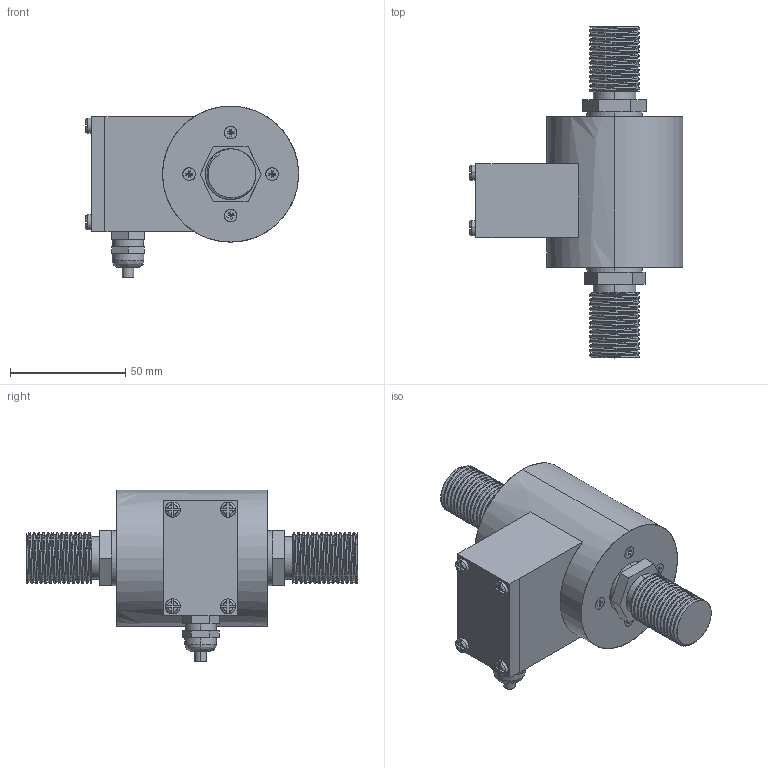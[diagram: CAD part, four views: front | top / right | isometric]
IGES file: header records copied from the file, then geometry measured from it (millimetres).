
Start section: SolidWorks IGES file using analytic representation for surfaces
Global section: file name: O:\16-Entwicklung\Projekte\03_Kraftsensoren\0222_KT1101\01_Mechanik & Gehäuse\01_Solid Works\01_Outline 3D files\KT1101_K_20KN.IGS; native system: SolidWorks 2012; preprocessor: SolidWorks 2012; author: AndreB; date: 140424.110636; units: metre
Bounding box: 92.5 x 144 x 74.5 mm (x, y, z)
Surface area: 33576.5 mm2 (no closed solid volume)
Topology: 0 solids, 0 shells, 283 faces, 5408 edges, 5408 vertices
Faces by surface type: bspline 195, revolution 88
